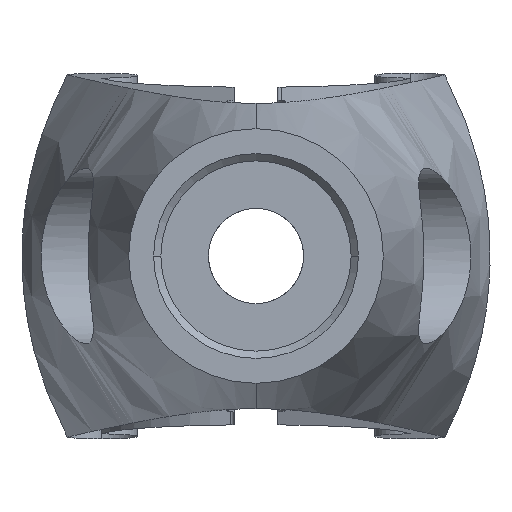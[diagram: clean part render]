
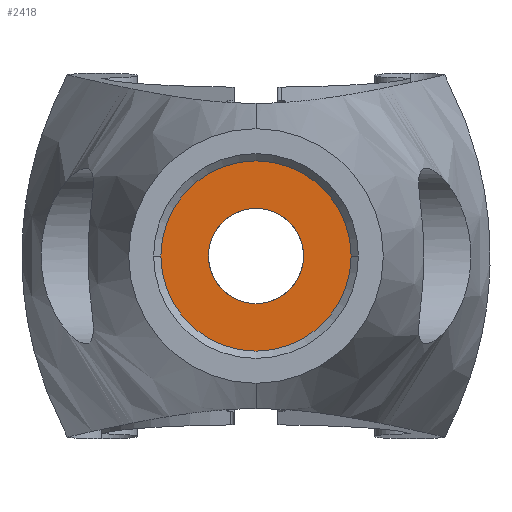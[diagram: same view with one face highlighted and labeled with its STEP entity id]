
A CAD part, left-side view. The second image highlights one B-rep face of the part: STEP entity #2418.
In plain terms, the highlighted planar face has unit normal (-1, 0, 0).
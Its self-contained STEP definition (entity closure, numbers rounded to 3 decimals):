
#9 = EDGE_CURVE ( 'NONE', #2309, #89, #1856, .T. ) ;
#14 = CARTESIAN_POINT ( 'NONE',  ( 0., 6.5, 0. ) ) ;
#37 = DIRECTION ( 'NONE',  ( 1., 0., 0. ) ) ;
#89 = VERTEX_POINT ( 'NONE', #14 ) ;
#193 = CARTESIAN_POINT ( 'NONE',  ( 0., -6.5, 0. ) ) ;
#218 = CARTESIAN_POINT ( 'NONE',  ( 0., 0., 3.25 ) ) ;
#305 = CIRCLE ( 'NONE', #1455, 6.5 ) ;
#364 = DIRECTION ( 'NONE',  ( 0., 0., -1. ) ) ;
#385 = AXIS2_PLACEMENT_3D ( 'NONE', #1492, #1894, #364 ) ;
#444 = EDGE_CURVE ( 'NONE', #2385, #619, #1060, .T. ) ;
#494 = DIRECTION ( 'NONE',  ( 0., 1., 0. ) ) ;
#599 = DIRECTION ( 'NONE',  ( 0., 1., 0. ) ) ;
#613 = CARTESIAN_POINT ( 'NONE',  ( 0., 0., 0. ) ) ;
#619 = VERTEX_POINT ( 'NONE', #1007 ) ;
#870 = CARTESIAN_POINT ( 'NONE',  ( 0., 0., 0. ) ) ;
#902 = FACE_OUTER_BOUND ( 'NONE', #2442, .T. ) ;
#940 = CIRCLE ( 'NONE', #385, 3.25 ) ;
#1007 = CARTESIAN_POINT ( 'NONE',  ( 0., 0., -3.25 ) ) ;
#1022 = ORIENTED_EDGE ( 'NONE', *, *, #444, .T. ) ;
#1060 = CIRCLE ( 'NONE', #1830, 3.25 ) ;
#1161 = EDGE_CURVE ( 'NONE', #89, #2309, #305, .T. ) ;
#1169 = CARTESIAN_POINT ( 'NONE',  ( 0., 0., 0. ) ) ;
#1352 = FACE_BOUND ( 'NONE', #1880, .T. ) ;
#1397 = AXIS2_PLACEMENT_3D ( 'NONE', #870, #2008, #2196 ) ;
#1439 = PLANE ( 'NONE',  #1397 ) ;
#1455 = AXIS2_PLACEMENT_3D ( 'NONE', #613, #2333, #599 ) ;
#1492 = CARTESIAN_POINT ( 'NONE',  ( 0., 0., 0. ) ) ;
#1558 = DIRECTION ( 'NONE',  ( 0., 0., -1. ) ) ;
#1830 = AXIS2_PLACEMENT_3D ( 'NONE', #1169, #37, #1558 ) ;
#1856 = CIRCLE ( 'NONE', #1924, 6.5 ) ;
#1880 = EDGE_LOOP ( 'NONE', ( #1022, #2268 ) ) ;
#1894 = DIRECTION ( 'NONE',  ( 1., 0., 0. ) ) ;
#1924 = AXIS2_PLACEMENT_3D ( 'NONE', #2211, #2405, #494 ) ;
#2008 = DIRECTION ( 'NONE',  ( -1., 0., 0. ) ) ;
#2196 = DIRECTION ( 'NONE',  ( 0., 0., 1. ) ) ;
#2211 = CARTESIAN_POINT ( 'NONE',  ( 0., 0., 0. ) ) ;
#2241 = EDGE_CURVE ( 'NONE', #619, #2385, #940, .T. ) ;
#2268 = ORIENTED_EDGE ( 'NONE', *, *, #2241, .T. ) ;
#2271 = ORIENTED_EDGE ( 'NONE', *, *, #1161, .F. ) ;
#2309 = VERTEX_POINT ( 'NONE', #193 ) ;
#2333 = DIRECTION ( 'NONE',  ( 1., 0., 0. ) ) ;
#2339 = ORIENTED_EDGE ( 'NONE', *, *, #9, .F. ) ;
#2385 = VERTEX_POINT ( 'NONE', #218 ) ;
#2405 = DIRECTION ( 'NONE',  ( 1., 0., 0. ) ) ;
#2418 = ADVANCED_FACE ( 'NONE', ( #1352, #902 ), #1439, .T. ) ;
#2442 = EDGE_LOOP ( 'NONE', ( #2271, #2339 ) ) ;
